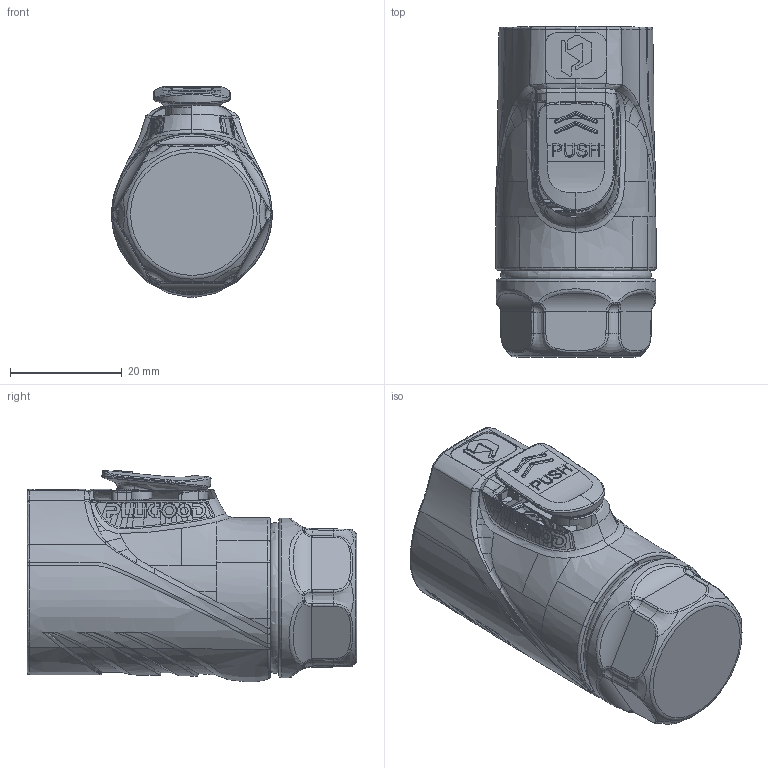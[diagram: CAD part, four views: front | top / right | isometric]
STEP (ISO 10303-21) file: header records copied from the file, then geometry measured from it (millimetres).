
FILE_DESCRIPTION (( 'STEP AP203' ), '1' );
FILE_NAME ('PLG20 RJ45²åÍ·.STEP', '2025-03-20T02:29:03', ( '' ), ( '' ), 'SwSTEP 2.0', 'SolidWorks 2024', '' );
FILE_SCHEMA (( 'CONFIG_CONTROL_DESIGN' ));
Products named in the file (1): PLG20 RJ45插头
Bounding box: 28.77 x 59.1 x 37.93 mm (x, y, z)
Topology: 2 solids, 7 shells, 1111 faces, 3034 edges, 1937 vertices
Faces by surface type: bspline 620, plane 276, cylinder 133, torus 41, cone 39, sphere 2
Full cylindrical faces by diameter (mm): 1.5 x4, 1.519 x1, 1.6 x2, 2.5 x1, 2.65 x1, 4.5 x1, 17.5 x1, 17.6 x1, 19.2 x2, 19.3 x2, 19.4 x2, 20.3 x1, 22.056 x8, 28.6 x1
Entity records: 86530 total; most frequent: CARTESIAN_POINT 64571, ORIENTED_EDGE 5858, EDGE_CURVE 2929, DIRECTION 2442, VERTEX_POINT 1895, B_SPLINE_CURVE_WITH_KNOTS 1736, EDGE_LOOP 1182, FACE_OUTER_BOUND 1143
